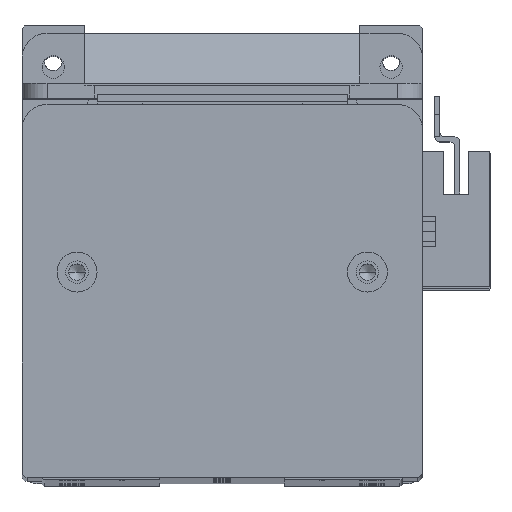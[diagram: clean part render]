
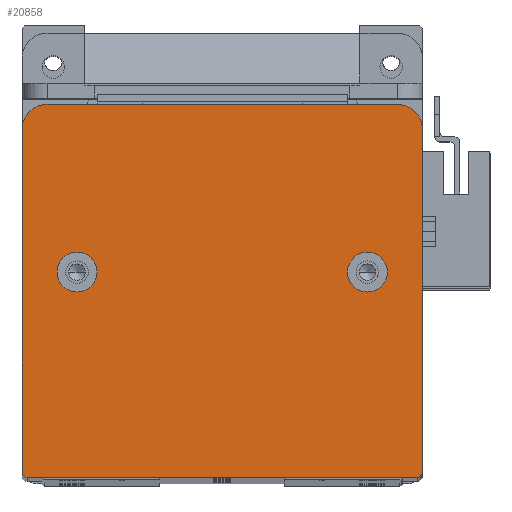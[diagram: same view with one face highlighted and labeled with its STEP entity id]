
A CAD part, top view. The second image highlights one B-rep face of the part: STEP entity #20858.
In plain terms, the highlighted planar face has unit normal (0, 0, 1).
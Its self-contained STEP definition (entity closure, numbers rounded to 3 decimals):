
#75 = ORIENTED_EDGE ( 'NONE', *, *, #2198, .F. ) ;
#324 = CARTESIAN_POINT ( 'NONE',  ( 7., 41., 10. ) ) ;
#471 = DIRECTION ( 'NONE',  ( 1., 0., 0. ) ) ;
#473 = VERTEX_POINT ( 'NONE', #26473 ) ;
#554 = DIRECTION ( 'NONE',  ( -1., 0., 0. ) ) ;
#1043 = AXIS2_PLACEMENT_3D ( 'NONE', #11964, #16093, #3259 ) ;
#1655 = CARTESIAN_POINT ( 'NONE',  ( 75., 74.5, 10. ) ) ;
#2114 = VERTEX_POINT ( 'NONE', #26038 ) ;
#2198 = EDGE_CURVE ( 'NONE', #3438, #473, #24857, .T. ) ;
#2237 = LINE ( 'NONE', #26234, #2241 ) ;
#2241 = VECTOR ( 'NONE', #11434, 1000. ) ;
#2514 = VECTOR ( 'NONE', #9869, 1000. ) ;
#2569 = LINE ( 'NONE', #16059, #2514 ) ;
#2698 = CARTESIAN_POINT ( 'NONE',  ( 0., 0., 10. ) ) ;
#2882 = CIRCLE ( 'NONE', #3230, 4. ) ;
#3101 = CARTESIAN_POINT ( 'NONE',  ( 1., 1., 10. ) ) ;
#3230 = AXIS2_PLACEMENT_3D ( 'NONE', #16801, #4000, #18909 ) ;
#3259 = DIRECTION ( 'NONE',  ( 1., 0., 0. ) ) ;
#3438 = VERTEX_POINT ( 'NONE', #23907 ) ;
#3758 = ORIENTED_EDGE ( 'NONE', *, *, #4554, .F. ) ;
#3981 = CARTESIAN_POINT ( 'NONE',  ( 69., 41., 10. ) ) ;
#4000 = DIRECTION ( 'NONE',  ( 0., 0., 1. ) ) ;
#4079 = DIRECTION ( 'NONE',  ( 0., 0., 1. ) ) ;
#4166 = CIRCLE ( 'NONE', #8045, 4. ) ;
#4177 = DIRECTION ( 'NONE',  ( 1., 0., 0. ) ) ;
#4415 = CARTESIAN_POINT ( 'NONE',  ( 11., 41., 10. ) ) ;
#4554 = EDGE_CURVE ( 'NONE', #473, #3438, #4166, .T. ) ;
#4760 = EDGE_CURVE ( 'NONE', #25863, #23623, #26192, .T. ) ;
#5336 = DIRECTION ( 'NONE',  ( 1., 0., 0. ) ) ;
#5996 = CARTESIAN_POINT ( 'NONE',  ( 80., 69.5, 10. ) ) ;
#6089 = CARTESIAN_POINT ( 'NONE',  ( 80., 1., 10. ) ) ;
#6670 = DIRECTION ( 'NONE',  ( 1., 0., 0. ) ) ;
#7606 = ORIENTED_EDGE ( 'NONE', *, *, #4760, .T. ) ;
#7778 = CARTESIAN_POINT ( 'NONE',  ( 5., 74.5, 10. ) ) ;
#8045 = AXIS2_PLACEMENT_3D ( 'NONE', #10886, #25660, #13009 ) ;
#8084 = ORIENTED_EDGE ( 'NONE', *, *, #20580, .F. ) ;
#8318 = CIRCLE ( 'NONE', #15869, 1. ) ;
#8767 = EDGE_CURVE ( 'NONE', #10384, #13770, #2237, .T. ) ;
#9197 = EDGE_LOOP ( 'NONE', ( #15313, #8084 ) ) ;
#9869 = DIRECTION ( 'NONE',  ( 0., -1., 0. ) ) ;
#10067 = EDGE_CURVE ( 'NONE', #11529, #13164, #22690, .T. ) ;
#10384 = VERTEX_POINT ( 'NONE', #6089 ) ;
#10886 = CARTESIAN_POINT ( 'NONE',  ( 69., 41., 10. ) ) ;
#10887 = ORIENTED_EDGE ( 'NONE', *, *, #10067, .T. ) ;
#10929 = CARTESIAN_POINT ( 'NONE',  ( 75., 69.5, 10. ) ) ;
#10990 = CARTESIAN_POINT ( 'NONE',  ( 0., 1., 10. ) ) ;
#11422 = DIRECTION ( 'NONE',  ( 1., 0., 0. ) ) ;
#11434 = DIRECTION ( 'NONE',  ( 0., 1., 0. ) ) ;
#11529 = VERTEX_POINT ( 'NONE', #1655 ) ;
#11674 = DIRECTION ( 'NONE',  ( 0., 0., 1. ) ) ;
#11964 = CARTESIAN_POINT ( 'NONE',  ( 0., 0., 10. ) ) ;
#12975 = VERTEX_POINT ( 'NONE', #26181 ) ;
#13009 = DIRECTION ( 'NONE',  ( 1., 0., 0. ) ) ;
#13048 = DIRECTION ( 'NONE',  ( 1., 0., 0. ) ) ;
#13164 = VERTEX_POINT ( 'NONE', #7778 ) ;
#13266 = AXIS2_PLACEMENT_3D ( 'NONE', #3101, #18076, #5336 ) ;
#13563 = DIRECTION ( 'NONE',  ( 0., 0., 1. ) ) ;
#13584 = AXIS2_PLACEMENT_3D ( 'NONE', #10929, #25704, #13048 ) ;
#13770 = VERTEX_POINT ( 'NONE', #5996 ) ;
#14516 = FACE_BOUND ( 'NONE', #19665, .T. ) ;
#14768 = FACE_BOUND ( 'NONE', #9197, .T. ) ;
#15117 = FACE_OUTER_BOUND ( 'NONE', #20070, .T. ) ;
#15313 = ORIENTED_EDGE ( 'NONE', *, *, #25695, .F. ) ;
#15392 = EDGE_CURVE ( 'NONE', #13164, #12975, #27226, .T. ) ;
#15869 = AXIS2_PLACEMENT_3D ( 'NONE', #24269, #11674, #26470 ) ;
#15912 = EDGE_CURVE ( 'NONE', #23623, #2114, #21668, .T. ) ;
#15928 = CARTESIAN_POINT ( 'NONE',  ( 15., 41., 10. ) ) ;
#16059 = CARTESIAN_POINT ( 'NONE',  ( 0., 74.5, 10. ) ) ;
#16093 = DIRECTION ( 'NONE',  ( 0., 0., 1. ) ) ;
#16801 = CARTESIAN_POINT ( 'NONE',  ( 11., 41., 10. ) ) ;
#16848 = ORIENTED_EDGE ( 'NONE', *, *, #27260, .T. ) ;
#17794 = ORIENTED_EDGE ( 'NONE', *, *, #15392, .T. ) ;
#17886 = ORIENTED_EDGE ( 'NONE', *, *, #19765, .T. ) ;
#17936 = ORIENTED_EDGE ( 'NONE', *, *, #8767, .T. ) ;
#18076 = DIRECTION ( 'NONE',  ( 0., 0., 1. ) ) ;
#18222 = AXIS2_PLACEMENT_3D ( 'NONE', #26262, #13563, #471 ) ;
#18592 = AXIS2_PLACEMENT_3D ( 'NONE', #3981, #4079, #4177 ) ;
#18696 = CIRCLE ( 'NONE', #23682, 4. ) ;
#18909 = DIRECTION ( 'NONE',  ( 1., 0., 0. ) ) ;
#19328 = DIRECTION ( 'NONE',  ( 0., 0., 1. ) ) ;
#19665 = EDGE_LOOP ( 'NONE', ( #75, #3758 ) ) ;
#19699 = ORIENTED_EDGE ( 'NONE', *, *, #15912, .T. ) ;
#19765 = EDGE_CURVE ( 'NONE', #12975, #25863, #2569, .T. ) ;
#20070 = EDGE_LOOP ( 'NONE', ( #17936, #24284, #10887, #17794, #17886, #7606, #19699, #16848 ) ) ;
#20580 = EDGE_CURVE ( 'NONE', #24928, #25419, #18696, .T. ) ;
#20858 = ADVANCED_FACE ( 'NONE', ( #14516, #14768, #15117 ), #26773, .T. ) ;
#21266 = VECTOR ( 'NONE', #11422, 1000. ) ;
#21668 = LINE ( 'NONE', #2698, #21266 ) ;
#22264 = CIRCLE ( 'NONE', #13584, 5. ) ;
#22647 = VECTOR ( 'NONE', #554, 1000. ) ;
#22690 = LINE ( 'NONE', #26348, #22647 ) ;
#23623 = VERTEX_POINT ( 'NONE', #25583 ) ;
#23682 = AXIS2_PLACEMENT_3D ( 'NONE', #4415, #19328, #6670 ) ;
#23907 = CARTESIAN_POINT ( 'NONE',  ( 73., 41., 10. ) ) ;
#24269 = CARTESIAN_POINT ( 'NONE',  ( 79., 1., 10. ) ) ;
#24284 = ORIENTED_EDGE ( 'NONE', *, *, #24805, .T. ) ;
#24805 = EDGE_CURVE ( 'NONE', #13770, #11529, #22264, .T. ) ;
#24857 = CIRCLE ( 'NONE', #18592, 4. ) ;
#24928 = VERTEX_POINT ( 'NONE', #324 ) ;
#25419 = VERTEX_POINT ( 'NONE', #15928 ) ;
#25583 = CARTESIAN_POINT ( 'NONE',  ( 1., 0., 10. ) ) ;
#25660 = DIRECTION ( 'NONE',  ( 0., 0., 1. ) ) ;
#25695 = EDGE_CURVE ( 'NONE', #25419, #24928, #2882, .T. ) ;
#25704 = DIRECTION ( 'NONE',  ( 0., 0., 1. ) ) ;
#25863 = VERTEX_POINT ( 'NONE', #10990 ) ;
#26038 = CARTESIAN_POINT ( 'NONE',  ( 79., 0., 10. ) ) ;
#26181 = CARTESIAN_POINT ( 'NONE',  ( 0., 69.5, 10. ) ) ;
#26192 = CIRCLE ( 'NONE', #13266, 1. ) ;
#26234 = CARTESIAN_POINT ( 'NONE',  ( 80., 0., 10. ) ) ;
#26262 = CARTESIAN_POINT ( 'NONE',  ( 5., 69.5, 10. ) ) ;
#26348 = CARTESIAN_POINT ( 'NONE',  ( 80., 74.5, 10. ) ) ;
#26470 = DIRECTION ( 'NONE',  ( 1., 0., 0. ) ) ;
#26473 = CARTESIAN_POINT ( 'NONE',  ( 65., 41., 10. ) ) ;
#26773 = PLANE ( 'NONE',  #1043 ) ;
#27226 = CIRCLE ( 'NONE', #18222, 5. ) ;
#27260 = EDGE_CURVE ( 'NONE', #2114, #10384, #8318, .T. ) ;
